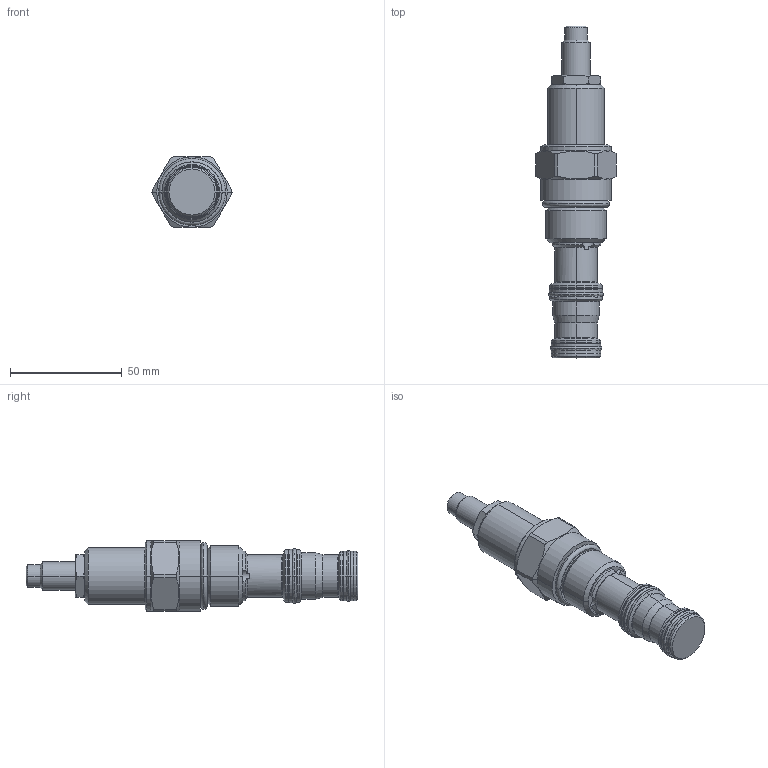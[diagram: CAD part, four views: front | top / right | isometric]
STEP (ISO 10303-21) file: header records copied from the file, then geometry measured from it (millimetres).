
FILE_DESCRIPTION((''),'2;1');
FILE_NAME('5616910_SW0001','2009-03-25T',('JCS'),(''),'PRO/ENGINEER BY PARAMETRIC TECHNOLOGY CORPORATION, 2008510','PRO/ENGINEER BY PARAMETRIC TECHNOLOGY CORPORATION, 2008510','');
FILE_SCHEMA(('CONFIG_CONTROL_DESIGN'));
Length unit declared in the file: inch
Products named in the file (1): 5616910_SW0001
Bounding box: 35.81 x 148.6 x 31.75 mm (x, y, z)
Volume: 65350.5 mm3; surface area: 15063.4 mm2
Topology: 4 solids, 4 shells, 214 faces, 483 edges, 283 vertices
Faces by surface type: cylinder 62, cone 55, plane 42, torus 31, revolution 24
Entity records: 7326 total; most frequent: CARTESIAN_POINT 2496, DIRECTION 1050, ORIENTED_EDGE 962, EDGE_CURVE 481, AXIS2_PLACEMENT_3D 439, VERTEX_POINT 283, CIRCLE 249, EDGE_LOOP 228
